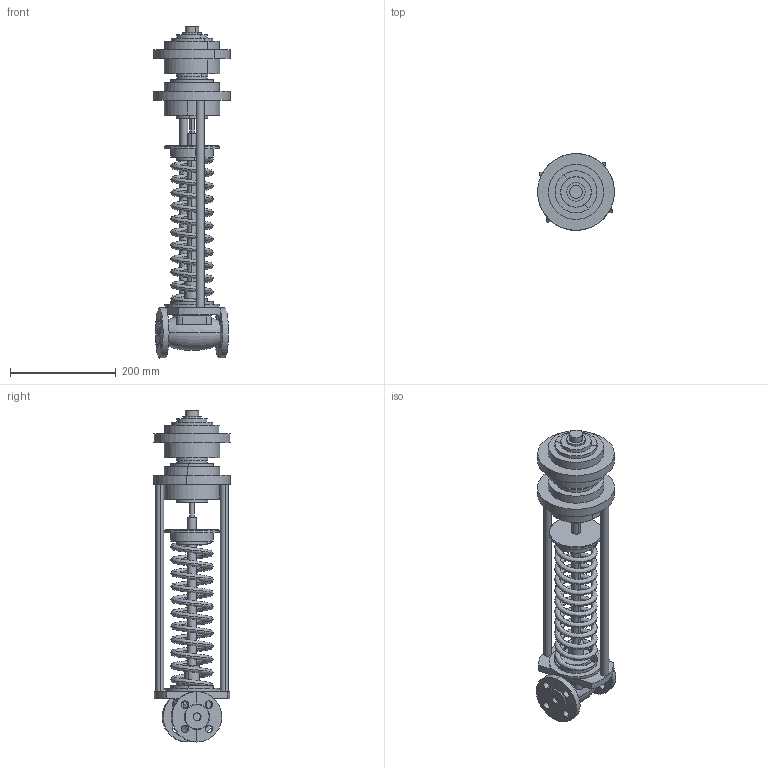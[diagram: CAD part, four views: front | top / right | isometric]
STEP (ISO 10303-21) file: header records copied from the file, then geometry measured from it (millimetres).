
FILE_DESCRIPTION (( 'STEP AP214' ), '1' );
FILE_NAME ('RDT-H-RDT-PH DN15 (0.1).STEP', '2025-12-12T11:27:18', ( '' ), ( '' ), 'SwSTEP 2.0', 'SolidWorks 2023', '' );
FILE_SCHEMA (( 'AUTOMOTIVE_DESIGN' ));
Length unit declared in the file: millimetre
Products named in the file (1): RDT-H-RDT-PH DN15 (0.1)
Bounding box: 144.95 x 144.95 x 626.5 mm (x, y, z)
Volume: 2703716.8 mm3; surface area: 352971.2 mm2
Topology: 1 solids, 2 shells, 160 faces, 359 edges, 226 vertices
Faces by surface type: cylinder 77, plane 44, cone 32, torus 4, bspline 3
Entity records: 10459 total; most frequent: CARTESIAN_POINT 6773, DIRECTION 805, ORIENTED_EDGE 714, EDGE_CURVE 357, AXIS2_PLACEMENT_3D 338, VERTEX_POINT 225, EDGE_LOOP 208, CIRCLE 180
